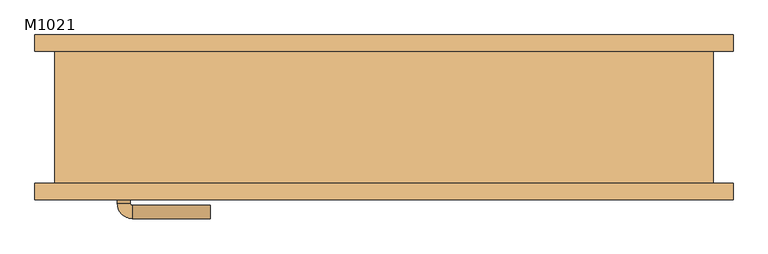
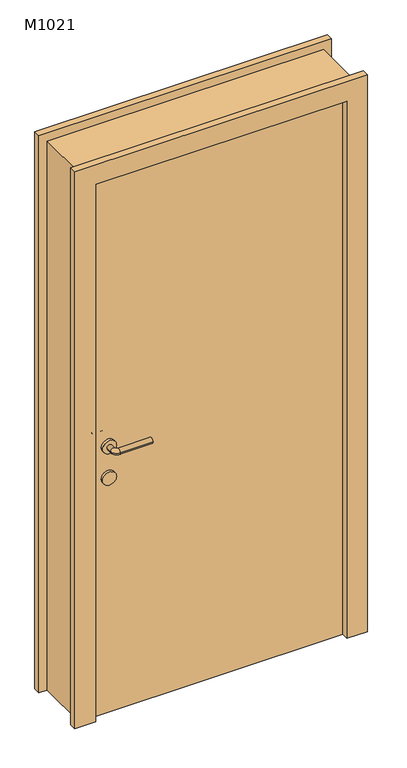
"""IFC4 building model written with IfcOpenShell, lengths in millimetres: door geometry, 单嵌板木门 1 : M1021."""

from ifc_helpers import new_model, si_unit, point, frame, frame_2d, origin, origin_with_axes, place, context, project, spatial, polyline, circle_curve, ellipse_curve, trimmed, segment, composite_curve, outline, extrude, source, transform, mapped, element, save
from ifc_brep_helpers import plane_surface, cylinder_surface, revolved_surface, advanced_brep


def m1021_ab7da2a0(model_context):
    return source(origin(), model_context, "Body", "SolidModel", [
        extrude(outline(composite_curve([segment(trimmed(circle_curve(frame_2d((900.0, -395.0)), 25.0), [point((900.0, -370.0))], [point((900.0, -420.0))], False, "CARTESIAN"), True, "CONTINUOUS"), segment(trimmed(circle_curve(frame_2d((900.0, -395.0)), 25.0), [point((900.0, -420.0))], [point((900.0, -370.0))], False, "CARTESIAN"), True, "CONTINUOUS")], self_intersect=False)), frame((0.0, -50.0, 0.0), z_axis=(0.0, 1.0, 0.0), x_axis=(0.0, 0.0, 1.0)), (0.0, 0.0, 1.0), 10.0),
        extrude(outline(composite_curve([segment(trimmed(circle_curve(frame_2d((900.0, -395.0)), 25.0), [point((900.0, -370.0))], [point((900.0, -420.0))], False, "CARTESIAN"), True, "CONTINUOUS"), segment(trimmed(circle_curve(frame_2d((900.0, -395.0)), 25.0), [point((900.0, -420.0))], [point((900.0, -370.0))], False, "CARTESIAN"), True, "CONTINUOUS")], self_intersect=False)), frame((0.0, -110.0, 0.0), z_axis=(0.0, 1.0, 0.0), x_axis=(0.0, 0.0, 1.0)), (0.0, 0.0, 1.0), 10.0),
        advanced_brep(
        [(-405.0, -40.0, 1020.0), (-385.0, -40.0, 1020.0), (-405.0, -19.386645, 1020.0), (-385.0, -19.386645, 1020.0), (-263.419036, 3.580964, 1020.0), (-263.419036, -16.419036, 1020.0), (-382.0323911, -16.419036, 1020.0), (-382.0323911, 3.580964, 1020.0)],
        [
            (0, 1, circle_curve(frame((-395.0, -40.0, 1020.0), z_axis=(0.0, -1.0, 0.0), x_axis=(1.0, 0.0, 0.0)), 10.0)),
            (1, 0, circle_curve(frame((-395.0, -40.0, 1020.0), z_axis=(0.0, -1.0, 0.0), x_axis=(1.0, 0.0, 0.0)), 10.0)),
            (0, 2),
            (2, 3, circle_curve(frame((-395.0, -19.386645, 1020.0), z_axis=(0.0, -1.0, 0.0), x_axis=(1.0, 0.0, 0.0)), 10.0)),
            (3, 1),
            (3, 2, circle_curve(frame((-395.0, -19.386645, 1020.0), z_axis=(0.0, -1.0, 0.0), x_axis=(1.0, 0.0, 0.0)), 10.0)),
            (4, 5, circle_curve(frame((-263.419036, -6.419036, 1020.0), z_axis=(1.0, 0.0, 0.0), x_axis=(0.0, -1.0, 0.0)), 10.0)),
            (5, 4, circle_curve(frame((-263.419036, -6.419036, 1020.0), z_axis=(1.0, 0.0, 0.0), x_axis=(0.0, -1.0, 0.0)), 10.0)),
            (6, 7, circle_curve(frame((-382.0323911, -6.419036, 1020.0), z_axis=(-1.0, 0.0, 0.0), x_axis=(0.0, -1.0, 0.0)), 10.0)),
            (7, 2, circle_curve(frame((-382.0323911, -19.386645, 1020.0), z_axis=(0.0, 0.0, 1.0), x_axis=(-1.0, 0.0, 0.0)), 22.9676089)),
            (3, 6, circle_curve(frame((-382.0323911, -19.386645, 1020.0), z_axis=(0.0, 0.0, -1.0), x_axis=(-1.0, 0.0, 0.0)), 2.9676089)),
            (7, 6, circle_curve(frame((-382.0323911, -6.419036, 1020.0), z_axis=(-1.0, 0.0, 0.0), x_axis=(0.0, -1.0, 0.0)), 10.0)),
            (6, 5),
            (4, 7),
        ],
        [
            plane_surface(frame((-395.0, -40.0, 900.0), z_axis=(0.0, -1.0, 0.0), x_axis=(0.0, 0.0, 1.0))),
            cylinder_surface(frame((-395.0, -40.0, 1020.0), z_axis=(0.0, -1.0, 0.0), x_axis=(1.0, 0.0, 0.0)), 10.0),
            plane_surface(frame((-263.419036, -6.419036, 900.0), z_axis=(1.0, 0.0, 0.0), x_axis=(0.0, 0.0, 1.0))),
            revolved_surface(trimmed(ellipse_curve(frame((-395.0, -19.386645, 1020.0), z_axis=(0.0, 1.0, 0.0), x_axis=(1.0, 0.0, 0.0)), 10.0, 10.0), [point((-405.0, -19.386645, 1020.0))], [point((-385.0, -19.386645, 1020.0))], True, "CARTESIAN"), (-382.0323911, -19.386645, 900.0), (0.0, 0.0, 1.0)),
            revolved_surface(trimmed(ellipse_curve(frame((-395.0, -19.386645, 1020.0), z_axis=(0.0, 1.0, 0.0), x_axis=(1.0, 0.0, 0.0)), 10.0, 10.0), [point((-385.0, -19.386645, 1020.0))], [point((-405.0, -19.386645, 1020.0))], True, "CARTESIAN"), (-382.0323911, -19.386645, 900.0), (0.0, 0.0, 1.0)),
            cylinder_surface(frame((-382.0323911, -6.419036, 1020.0), z_axis=(-1.0, 0.0, 0.0), x_axis=(0.0, -1.0, 0.0)), 10.0),
        ],
        [
            (0, [[1, 2]]),
            (1, [[3, 4, 5, -1]]),
            (1, [[-5, 6, -3, -2]]),
            (2, [[7, 8]]),
            (3, [[9, 10, -6, 11]]),
            (4, [[12, -11, -4, -10]]),
            (5, [[13, -7, 14, -9]]),
            (5, [[-14, -8, -13, -12]]),
        ],
    ),
        extrude(outline(composite_curve([segment(trimmed(circle_curve(frame_2d((1020.0, -395.0)), 25.0), [point((1020.0, -370.0))], [point((1020.0, -420.0))], False, "CARTESIAN"), True, "CONTINUOUS"), segment(trimmed(circle_curve(frame_2d((1020.0, -395.0)), 25.0), [point((1020.0, -420.0))], [point((1020.0, -370.0))], False, "CARTESIAN"), True, "CONTINUOUS")], self_intersect=False)), frame((0.0, -50.0, 0.0), z_axis=(0.0, 1.0, 0.0), x_axis=(0.0, 0.0, 1.0)), (0.0, 0.0, 1.0), 10.0),
        advanced_brep(
        [(-385.0, -110.0, 1020.0), (-405.0, -110.0, 1020.0), (-405.0, -130.6133551, 1020.0), (-385.0, -130.6133551, 1020.0), (-263.419036, -133.580964, 1020.0), (-263.419036, -153.580964, 1020.0), (-382.0323911, -153.580964, 1020.0), (-382.0323911, -133.580964, 1020.0)],
        [
            (0, 1, circle_curve(frame((-395.0, -110.0, 1020.0), z_axis=(0.0, 1.0, 0.0), x_axis=(-1.0, 0.0, 0.0)), 10.0)),
            (1, 0, circle_curve(frame((-395.0, -110.0, 1020.0), z_axis=(0.0, 1.0, 0.0), x_axis=(-1.0, 0.0, 0.0)), 10.0)),
            (1, 2),
            (2, 3, circle_curve(frame((-395.0, -130.6133551, 1020.0), z_axis=(0.0, 1.0, 0.0), x_axis=(-1.0, 0.0, 0.0)), 10.0)),
            (3, 0),
            (3, 2, circle_curve(frame((-395.0, -130.6133551, 1020.0), z_axis=(0.0, 1.0, 0.0), x_axis=(-1.0, 0.0, 0.0)), 10.0)),
            (4, 5, circle_curve(frame((-263.419036, -143.580964, 1020.0), z_axis=(1.0, 0.0, 0.0), x_axis=(0.0, -1.0, 0.0)), 10.0)),
            (5, 4, circle_curve(frame((-263.419036, -143.580964, 1020.0), z_axis=(1.0, 0.0, 0.0), x_axis=(0.0, -1.0, 0.0)), 10.0)),
            (6, 7, circle_curve(frame((-382.0323911, -143.580964, 1020.0), z_axis=(-1.0, 0.0, 0.0), x_axis=(0.0, -1.0, 0.0)), 10.0)),
            (7, 3, circle_curve(frame((-382.0323911, -130.6133551, 1020.0), z_axis=(0.0, 0.0, -1.0), x_axis=(-1.0, 0.0, 0.0)), 2.9676089)),
            (2, 6, circle_curve(frame((-382.0323911, -130.6133551, 1020.0), z_axis=(0.0, 0.0, 1.0), x_axis=(-1.0, 0.0, 0.0)), 22.9676089)),
            (7, 6, circle_curve(frame((-382.0323911, -143.580964, 1020.0), z_axis=(-1.0, 0.0, 0.0), x_axis=(0.0, -1.0, 0.0)), 10.0)),
            (6, 5),
            (4, 7),
        ],
        [
            plane_surface(frame((-395.0, -110.0, 900.0), z_axis=(0.0, 1.0, 0.0), x_axis=(0.0, 0.0, 1.0))),
            cylinder_surface(frame((-395.0, -110.0, 1020.0), z_axis=(0.0, 1.0, 0.0), x_axis=(-1.0, 0.0, 0.0)), 10.0),
            plane_surface(frame((-263.419036, -143.580964, 900.0), z_axis=(1.0, 0.0, 0.0), x_axis=(0.0, 0.0, 1.0))),
            revolved_surface(trimmed(ellipse_curve(frame((-395.0, -130.6133551, 1020.0), z_axis=(0.0, -1.0, 0.0), x_axis=(-1.0, 0.0, 0.0)), 10.0, 10.0), [point((-385.0, -130.6133551, 1020.0))], [point((-405.0, -130.6133551, 1020.0))], True, "CARTESIAN"), (-382.0323911, -130.6133551, 900.0), (0.0, 0.0, -1.0)),
            revolved_surface(trimmed(ellipse_curve(frame((-395.0, -130.6133551, 1020.0), z_axis=(0.0, -1.0, 0.0), x_axis=(-1.0, 0.0, 0.0)), 10.0, 10.0), [point((-405.0, -130.6133551, 1020.0))], [point((-385.0, -130.6133551, 1020.0))], True, "CARTESIAN"), (-382.0323911, -130.6133551, 900.0), (0.0, 0.0, -1.0)),
            cylinder_surface(frame((-382.0323911, -143.580964, 1020.0), z_axis=(-1.0, 0.0, 0.0), x_axis=(0.0, -1.0, 0.0)), 10.0),
        ],
        [
            (0, [[1, 2]]),
            (1, [[3, 4, 5, -2]]),
            (1, [[-5, 6, -3, -1]]),
            (2, [[7, 8]]),
            (3, [[9, 10, -4, 11]]),
            (4, [[12, -11, -6, -10]]),
            (5, [[13, -7, 14, -9]]),
            (5, [[-14, -8, -13, -12]]),
        ],
    ),
        extrude(outline(composite_curve([segment(trimmed(circle_curve(frame_2d((1020.0, -395.0)), 25.0), [point((1020.0, -370.0))], [point((1020.0, -420.0))], False, "CARTESIAN"), True, "CONTINUOUS"), segment(trimmed(circle_curve(frame_2d((1020.0, -395.0)), 25.0), [point((1020.0, -420.0))], [point((1020.0, -370.0))], False, "CARTESIAN"), True, "CONTINUOUS")], self_intersect=False)), frame((0.0, -110.0, 0.0), z_axis=(0.0, 1.0, 0.0), x_axis=(0.0, 0.0, 1.0)), (0.0, 0.0, 1.0), 10.0),
        extrude(outline(polyline([(0.0, 530.0), (2130.0, 530.0), (2130.0, -530.0), (0.0, -530.0), (0.0, -455.0), (2055.0, -455.0), (2055.0, 455.0), (0.0, 455.0), (0.0, 530.0)])), frame((0.0, -125.0, 0.0), z_axis=(0.0, 1.0, 0.0), x_axis=(0.0, 0.0, 1.0)), (0.0, 0.0, 1.0), 25.0),
        extrude(outline(polyline([(2130.0, 530.0), (2130.0, -530.0), (0.0, -530.0), (0.0, -455.0), (2055.0, -455.0), (2055.0, 455.0), (0.0, 455.0), (0.0, 530.0), (2130.0, 530.0)])), frame((0.0, 100.0, 0.0), z_axis=(0.0, 1.0, 0.0), x_axis=(0.0, 0.0, 1.0)), (0.0, 0.0, 1.0), 25.0),
        extrude(outline(polyline([(455.0, -50.0), (455.0, -100.0), (-455.0, -100.0), (-455.0, -50.0), (455.0, -50.0)])), origin_with_axes(), (0.0, 0.0, 1.0), 2055.0),
        extrude(outline(polyline([(2100.0, -500.0), (0.0, -500.0), (0.0, -455.0), (2055.0, -455.0), (2055.0, 455.0), (0.0, 455.0), (0.0, 500.0), (2100.0, 500.0), (2100.0, -500.0)])), frame((0.0, -100.0, 0.0), z_axis=(0.0, 1.0, 0.0), x_axis=(0.0, 0.0, 1.0)), (0.0, 0.0, 1.0), 200.0),
    ])


if __name__ == "__main__":
    model = new_model("IFC4")
    model_context = context("Model", 3, world=origin())
    ifc_project = project(units=[si_unit("LENGTHUNIT", "METRE", prefix="MILLI")], contexts=[model_context])
    site = spatial("IfcSite", under=ifc_project)
    building = spatial("IfcBuilding", under=site)
    placement = place(None, origin())
    m1021_shape = m1021_ab7da2a0(model_context)
    element("IfcDoor", 1, ObjectType="单嵌板木门 1 : M1021", at=placement, inside=building, context=model_context, shape_type="MappedRepresentation", body=[
        mapped(m1021_shape, transform((0.0, 0.0, 0.0), x_axis=(1.0, 0.0, 0.0), y_axis=(0.0, 1.0, 0.0), z_axis=(0.0, 0.0, 1.0))),
    ])
    save(model, "model.ifc")
